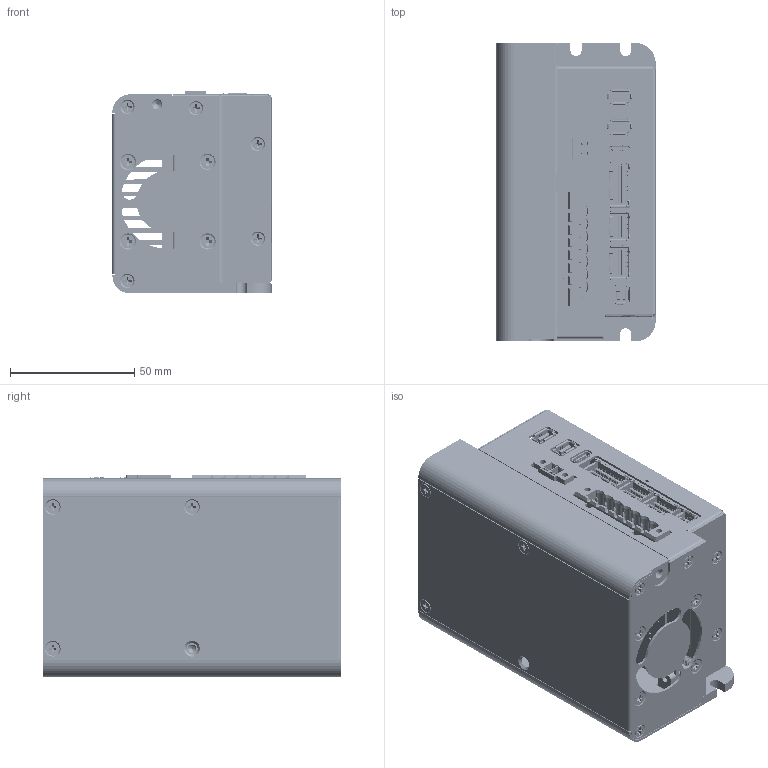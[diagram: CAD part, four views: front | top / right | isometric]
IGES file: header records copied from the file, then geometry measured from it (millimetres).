
Start section: SolidWorks IGES file using analytic representation for surfaces
Global section: file name: C:\Users\yakovs\Desktop\New folder\P-BAS_CAN_FAN.IGS; native system: SolidWorks 2022; preprocessor: SolidWorks 2022; author: Yakovs; date: 240610.153041; units: millimetre
Bounding box: 64 x 120 x 81.5 mm (x, y, z)
Surface area: 177775.2 mm2 (no closed solid volume)
Topology: 0 solids, 0 shells, 9289 faces, 77892 edges, 77800 vertices
Faces by surface type: bspline 6988, revolution 2301
